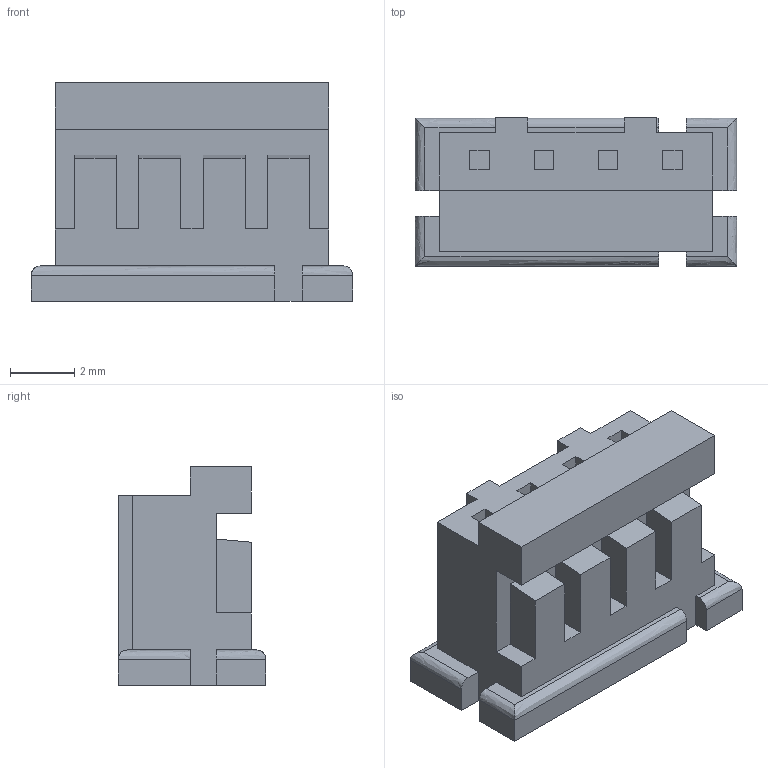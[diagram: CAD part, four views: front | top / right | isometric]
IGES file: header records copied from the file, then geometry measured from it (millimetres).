
Start section: Elysium IGES Interface
Global section: file name: T:\3DWEB公開\NCW\DF3\DF3-#S-2C\DF3-4S-2C.igs, ; native system: SolidDesigner 15.00A  14-Mar-2007; preprocessor: OneSpace IGES_3D V2.2; author: Unknown; organization: Unknown; date: 20080207.191508; units: millimetre
Bounding box: 10 x 4.6 x 6.8 mm (x, y, z)
Volume: 193.4 mm3; surface area: 317.1 mm2
Topology: 1 solids, 9 shells, 162 faces, 405 edges, 268 vertices
Faces by surface type: bspline 162
